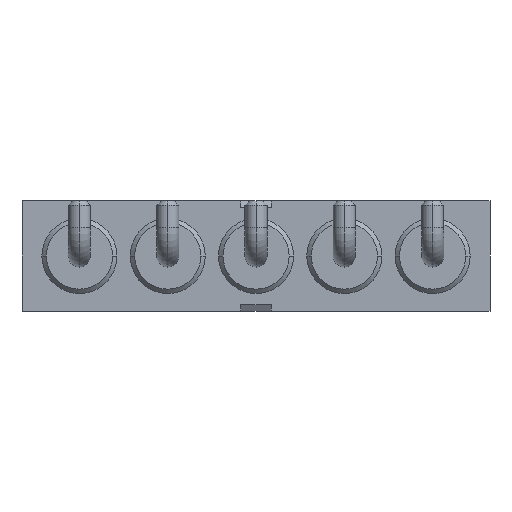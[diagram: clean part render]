
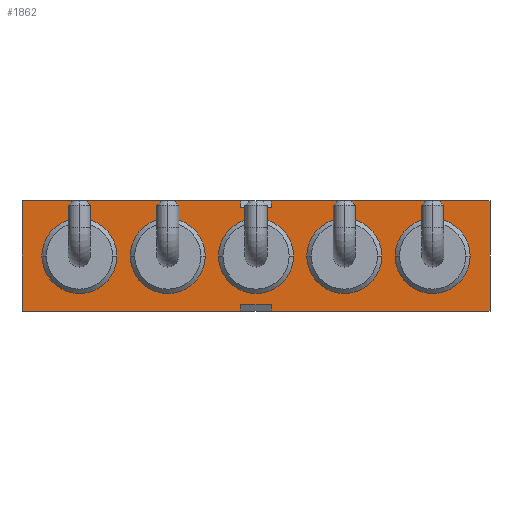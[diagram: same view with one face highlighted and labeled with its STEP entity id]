
A CAD part, front view. The second image highlights one B-rep face of the part: STEP entity #1862.
In plain terms, the highlighted planar face has unit normal (0, -1, 0).
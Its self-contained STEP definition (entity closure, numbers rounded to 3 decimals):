
#127=DIRECTION('',(0.,0.,-1.));
#128=VECTOR('',#127,0.15);
#129=CARTESIAN_POINT('',(-0.35,0.,1.25));
#130=LINE('',#129,#128);
#131=DIRECTION('',(1.,0.,0.));
#132=VECTOR('',#131,0.7);
#133=CARTESIAN_POINT('',(-0.35,0.,1.1));
#134=LINE('',#133,#132);
#135=DIRECTION('',(1.,0.,0.));
#136=VECTOR('',#135,4.95);
#137=CARTESIAN_POINT('',(0.35,0.,1.25));
#138=LINE('',#137,#136);
#139=DIRECTION('',(0.,0.,-1.));
#140=VECTOR('',#139,2.5);
#141=CARTESIAN_POINT('',(5.3,0.,1.25));
#142=LINE('',#141,#140);
#143=DIRECTION('',(-1.,0.,0.));
#144=VECTOR('',#143,4.95);
#145=CARTESIAN_POINT('',(5.3,0.,-1.25));
#146=LINE('',#145,#144);
#147=DIRECTION('',(0.,0.,1.));
#148=VECTOR('',#147,0.15);
#149=CARTESIAN_POINT('',(0.35,0.,-1.25));
#150=LINE('',#149,#148);
#151=DIRECTION('',(-1.,0.,0.));
#152=VECTOR('',#151,4.95);
#153=CARTESIAN_POINT('',(-0.35,0.,-1.25));
#154=LINE('',#153,#152);
#155=DIRECTION('',(0.,0.,1.));
#156=VECTOR('',#155,2.5);
#157=CARTESIAN_POINT('',(-5.3,0.,-1.25));
#158=LINE('',#157,#156);
#159=DIRECTION('',(1.,0.,0.));
#160=VECTOR('',#159,4.95);
#161=CARTESIAN_POINT('',(-5.3,0.,1.25));
#162=LINE('',#161,#160);
#163=CARTESIAN_POINT('',(-3.999,0.,0.));
#164=DIRECTION('',(0.,-1.,0.));
#165=DIRECTION('',(1.,0.,0.));
#166=AXIS2_PLACEMENT_3D('',#163,#164,#165);
#168=CARTESIAN_POINT('',(-3.999,0.,0.));
#169=DIRECTION('',(0.,-1.,0.));
#170=DIRECTION('',(-1.,0.,0.));
#171=AXIS2_PLACEMENT_3D('',#168,#169,#170);
#173=CARTESIAN_POINT('',(-1.999,0.,0.));
#174=DIRECTION('',(0.,-1.,0.));
#175=DIRECTION('',(1.,0.,0.));
#176=AXIS2_PLACEMENT_3D('',#173,#174,#175);
#178=CARTESIAN_POINT('',(-1.999,0.,0.));
#179=DIRECTION('',(0.,-1.,0.));
#180=DIRECTION('',(-1.,0.,0.));
#181=AXIS2_PLACEMENT_3D('',#178,#179,#180);
#183=CARTESIAN_POINT('',(0.001,0.,0.));
#184=DIRECTION('',(0.,-1.,0.));
#185=DIRECTION('',(1.,0.,0.));
#186=AXIS2_PLACEMENT_3D('',#183,#184,#185);
#188=CARTESIAN_POINT('',(0.001,0.,0.));
#189=DIRECTION('',(0.,-1.,0.));
#190=DIRECTION('',(-1.,0.,0.));
#191=AXIS2_PLACEMENT_3D('',#188,#189,#190);
#193=CARTESIAN_POINT('',(2.001,0.,0.));
#194=DIRECTION('',(0.,-1.,0.));
#195=DIRECTION('',(1.,0.,0.));
#196=AXIS2_PLACEMENT_3D('',#193,#194,#195);
#198=CARTESIAN_POINT('',(2.001,0.,0.));
#199=DIRECTION('',(0.,-1.,0.));
#200=DIRECTION('',(-1.,0.,0.));
#201=AXIS2_PLACEMENT_3D('',#198,#199,#200);
#203=CARTESIAN_POINT('',(4.001,0.,0.));
#204=DIRECTION('',(0.,-1.,0.));
#205=DIRECTION('',(1.,0.,0.));
#206=AXIS2_PLACEMENT_3D('',#203,#204,#205);
#208=CARTESIAN_POINT('',(4.001,0.,0.));
#209=DIRECTION('',(0.,-1.,0.));
#210=DIRECTION('',(-1.,0.,0.));
#211=AXIS2_PLACEMENT_3D('',#208,#209,#210);
#265=DIRECTION('',(0.,0.,1.));
#266=VECTOR('',#265,0.15);
#267=CARTESIAN_POINT('',(-0.35,0.,-1.25));
#268=LINE('',#267,#266);
#273=DIRECTION('',(1.,0.,0.));
#274=VECTOR('',#273,0.7);
#275=CARTESIAN_POINT('',(-0.35,0.,-1.1));
#276=LINE('',#275,#274);
#739=DIRECTION('',(0.,0.,-1.));
#740=VECTOR('',#739,0.15);
#741=CARTESIAN_POINT('',(0.35,0.,1.25));
#742=LINE('',#741,#740);
#1275=CARTESIAN_POINT('',(-0.35,0.,1.25));
#1276=CARTESIAN_POINT('',(-0.35,0.,1.1));
#1277=VERTEX_POINT('',#1275);
#1278=VERTEX_POINT('',#1276);
#1279=CARTESIAN_POINT('',(0.35,0.,1.1));
#1280=VERTEX_POINT('',#1279);
#1281=CARTESIAN_POINT('',(0.35,0.,1.25));
#1282=VERTEX_POINT('',#1281);
#1283=CARTESIAN_POINT('',(5.3,0.,1.25));
#1284=VERTEX_POINT('',#1283);
#1285=CARTESIAN_POINT('',(5.3,0.,-1.25));
#1286=VERTEX_POINT('',#1285);
#1287=CARTESIAN_POINT('',(0.35,0.,-1.25));
#1288=VERTEX_POINT('',#1287);
#1289=CARTESIAN_POINT('',(0.35,0.,-1.1));
#1290=VERTEX_POINT('',#1289);
#1291=CARTESIAN_POINT('',(-0.35,0.,-1.1));
#1292=VERTEX_POINT('',#1291);
#1293=CARTESIAN_POINT('',(-0.35,0.,-1.25));
#1294=VERTEX_POINT('',#1293);
#1295=CARTESIAN_POINT('',(-5.3,0.,-1.25));
#1296=VERTEX_POINT('',#1295);
#1297=CARTESIAN_POINT('',(-5.3,0.,1.25));
#1298=VERTEX_POINT('',#1297);
#1373=CARTESIAN_POINT('',(-3.149,0.,0.));
#1374=CARTESIAN_POINT('',(-4.849,0.,0.));
#1375=VERTEX_POINT('',#1373);
#1376=VERTEX_POINT('',#1374);
#1427=CARTESIAN_POINT('',(-1.149,0.,0.));
#1428=CARTESIAN_POINT('',(-2.849,0.,0.));
#1429=VERTEX_POINT('',#1427);
#1430=VERTEX_POINT('',#1428);
#1481=CARTESIAN_POINT('',(0.851,0.,0.));
#1482=CARTESIAN_POINT('',(-0.849,0.,0.));
#1483=VERTEX_POINT('',#1481);
#1484=VERTEX_POINT('',#1482);
#1535=CARTESIAN_POINT('',(2.851,0.,0.));
#1536=CARTESIAN_POINT('',(1.151,0.,0.));
#1537=VERTEX_POINT('',#1535);
#1538=VERTEX_POINT('',#1536);
#1589=CARTESIAN_POINT('',(4.851,0.,0.));
#1590=CARTESIAN_POINT('',(3.151,0.,0.));
#1591=VERTEX_POINT('',#1589);
#1592=VERTEX_POINT('',#1590);
#1802=CARTESIAN_POINT('',(0.,0.,0.));
#1803=DIRECTION('',(0.,1.,0.));
#1804=DIRECTION('',(1.,0.,0.));
#1805=AXIS2_PLACEMENT_3D('',#1802,#1803,#1804);
#1806=PLANE('',#1805);
#1808=ORIENTED_EDGE('',*,*,#1807,.T.);
#1810=ORIENTED_EDGE('',*,*,#1809,.T.);
#1812=ORIENTED_EDGE('',*,*,#1811,.F.);
#1814=ORIENTED_EDGE('',*,*,#1813,.T.);
#1816=ORIENTED_EDGE('',*,*,#1815,.T.);
#1818=ORIENTED_EDGE('',*,*,#1817,.T.);
#1820=ORIENTED_EDGE('',*,*,#1819,.T.);
#1822=ORIENTED_EDGE('',*,*,#1821,.F.);
#1824=ORIENTED_EDGE('',*,*,#1823,.F.);
#1826=ORIENTED_EDGE('',*,*,#1825,.T.);
#1828=ORIENTED_EDGE('',*,*,#1827,.T.);
#1830=ORIENTED_EDGE('',*,*,#1829,.T.);
#1831=EDGE_LOOP('',(#1808,#1810,#1812,#1814,#1816,#1818,#1820,#1822,#1824,#1826,
#1828,#1830));
#1832=FACE_OUTER_BOUND('',#1831,.F.);
#1834=ORIENTED_EDGE('',*,*,#1833,.T.);
#1836=ORIENTED_EDGE('',*,*,#1835,.T.);
#1837=EDGE_LOOP('',(#1834,#1836));
#1838=FACE_BOUND('',#1837,.F.);
#1840=ORIENTED_EDGE('',*,*,#1839,.T.);
#1842=ORIENTED_EDGE('',*,*,#1841,.T.);
#1843=EDGE_LOOP('',(#1840,#1842));
#1844=FACE_BOUND('',#1843,.F.);
#1845=ORIENTED_EDGE('',*,*,#1792,.T.);
#1847=ORIENTED_EDGE('',*,*,#1846,.T.);
#1848=EDGE_LOOP('',(#1845,#1847));
#1849=FACE_BOUND('',#1848,.F.);
#1851=ORIENTED_EDGE('',*,*,#1850,.T.);
#1853=ORIENTED_EDGE('',*,*,#1852,.T.);
#1854=EDGE_LOOP('',(#1851,#1853));
#1855=FACE_BOUND('',#1854,.F.);
#1857=ORIENTED_EDGE('',*,*,#1856,.T.);
#1859=ORIENTED_EDGE('',*,*,#1858,.T.);
#1860=EDGE_LOOP('',(#1857,#1859));
#1861=FACE_BOUND('',#1860,.F.);
#1862=ADVANCED_FACE('',(#1832,#1838,#1844,#1849,#1855,#1861),#1806,.F.);
#167=CIRCLE('',#166,0.85);
#172=CIRCLE('',#171,0.85);
#177=CIRCLE('',#176,0.85);
#182=CIRCLE('',#181,0.85);
#187=CIRCLE('',#186,0.85);
#192=CIRCLE('',#191,0.85);
#197=CIRCLE('',#196,0.85);
#202=CIRCLE('',#201,0.85);
#207=CIRCLE('',#206,0.85);
#212=CIRCLE('',#211,0.85);
#1792=EDGE_CURVE('',#1483,#1484,#187,.T.);
#1807=EDGE_CURVE('',#1277,#1278,#130,.T.);
#1809=EDGE_CURVE('',#1278,#1280,#134,.T.);
#1811=EDGE_CURVE('',#1282,#1280,#742,.T.);
#1813=EDGE_CURVE('',#1282,#1284,#138,.T.);
#1815=EDGE_CURVE('',#1284,#1286,#142,.T.);
#1817=EDGE_CURVE('',#1286,#1288,#146,.T.);
#1819=EDGE_CURVE('',#1288,#1290,#150,.T.);
#1821=EDGE_CURVE('',#1292,#1290,#276,.T.);
#1823=EDGE_CURVE('',#1294,#1292,#268,.T.);
#1825=EDGE_CURVE('',#1294,#1296,#154,.T.);
#1827=EDGE_CURVE('',#1296,#1298,#158,.T.);
#1829=EDGE_CURVE('',#1298,#1277,#162,.T.);
#1833=EDGE_CURVE('',#1375,#1376,#167,.T.);
#1835=EDGE_CURVE('',#1376,#1375,#172,.T.);
#1839=EDGE_CURVE('',#1429,#1430,#177,.T.);
#1841=EDGE_CURVE('',#1430,#1429,#182,.T.);
#1846=EDGE_CURVE('',#1484,#1483,#192,.T.);
#1850=EDGE_CURVE('',#1537,#1538,#197,.T.);
#1852=EDGE_CURVE('',#1538,#1537,#202,.T.);
#1856=EDGE_CURVE('',#1591,#1592,#207,.T.);
#1858=EDGE_CURVE('',#1592,#1591,#212,.T.);
